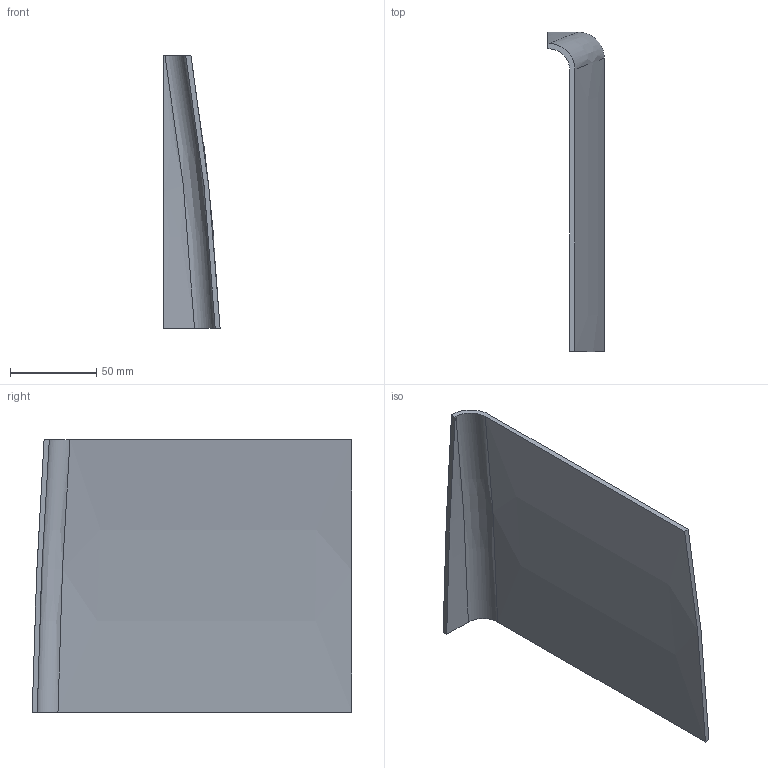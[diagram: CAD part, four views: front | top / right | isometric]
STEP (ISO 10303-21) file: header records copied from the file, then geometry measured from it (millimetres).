
FILE_DESCRIPTION(('Open CASCADE Model'),'2;1');
FILE_NAME('Open CASCADE Shape Model','2026-11-03T04:29:33',('Author'),( 'Open CASCADE'),'Open CASCADE STEP processor 7.8','Open CASCADE 7.8' ,'Unknown');
FILE_SCHEMA(('AUTOMOTIVE_DESIGN { 1 0 10303 214 1 1 1 1 }'));
Length unit declared in the file: millimetre
Products named in the file (1): Open CASCADE STEP translator 7.8 20
Bounding box: 32.64 x 185.35 x 158 mm (x, y, z)
Volume: 87235.7 mm3; surface area: 65487.1 mm2
Topology: 1 solids, 1 shells, 10 faces, 24 edges, 16 vertices
Faces by surface type: bspline 6, plane 4
Entity records: 1320 total; most frequent: CARTESIAN_POINT 931, B_SPLINE_CURVE_WITH_KNOTS 52, ORIENTED_EDGE 48, PCURVE 48, DEFINITIONAL_REPRESENTATION 48, DIRECTION 30, EDGE_CURVE 24, SURFACE_CURVE 24
